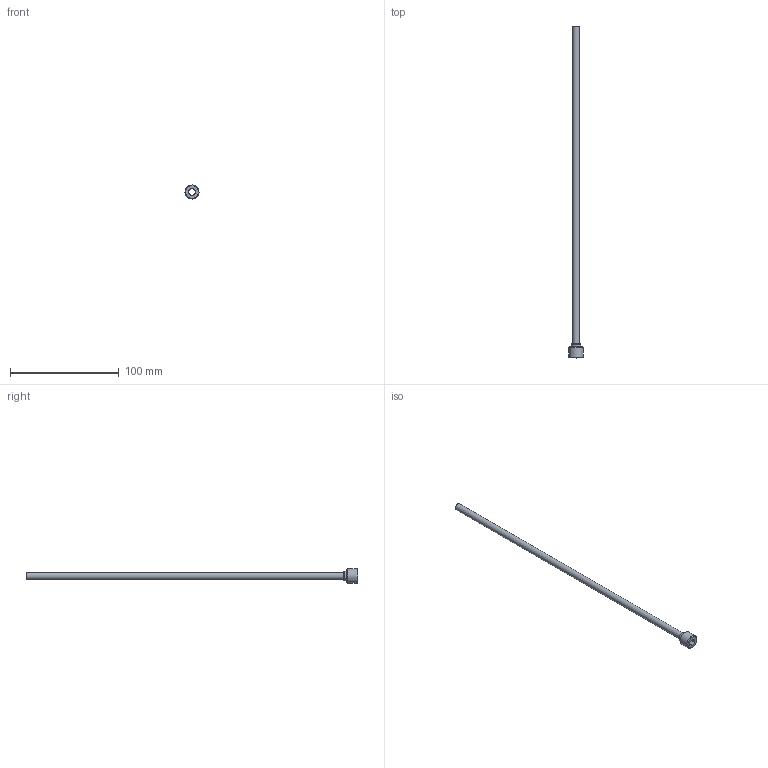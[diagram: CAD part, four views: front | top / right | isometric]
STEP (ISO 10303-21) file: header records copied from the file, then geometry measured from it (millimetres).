
FILE_DESCRIPTION(/* description */ (''),/* implementation_level */ '2;1');
FILE_NAME(/* name */ 'C:/Users/drich/Desktop/PT14-250-12 v1.step',/* time_stamp */ '2019-12-27T15:08:35-06:00',/* author */ (''),/* organization */ (''),/* preprocessor_version */ 'ST-DEVELOPER v18',/* originating_system */ 'Autodesk Translation Framework v8.12.0.6',/* authorisation */ '');
FILE_SCHEMA (('AUTOMOTIVE_DESIGN { 1 0 10303 214 3 1 1 }'));
Length unit declared in the file: inch
Products named in the file (1): PT14-250-12
Bounding box: 13.03 x 304.8 x 13.03 mm (x, y, z)
Volume: 2508.2 mm3; surface area: 12105.5 mm2
Topology: 1 solids, 1 shells, 19 faces, 48 edges, 34 vertices
Faces by surface type: plane 11, cylinder 4, torus 2, cone 2
Full cylindrical faces by diameter (mm): 5.842 x1, 6.35 x1, 8.712 x1, 13.032 x1
Entity records: 633 total; most frequent: DIRECTION 112, CARTESIAN_POINT 102, ORIENTED_EDGE 96, EDGE_CURVE 48, AXIS2_PLACEMENT_3D 44, VERTEX_POINT 34, CIRCLE 24, EDGE_LOOP 24
